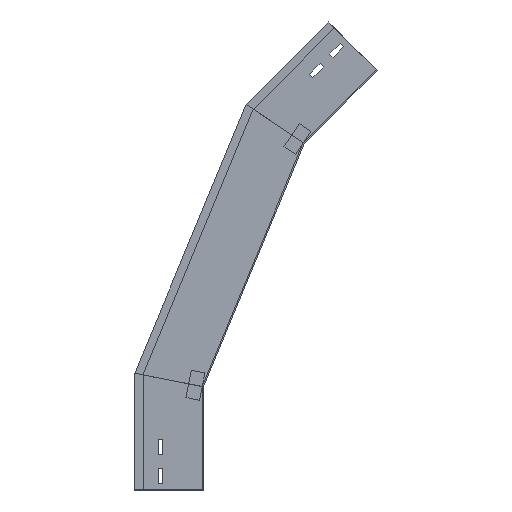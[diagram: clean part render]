
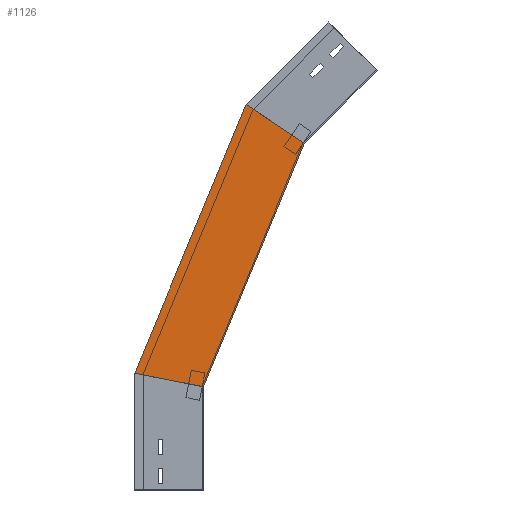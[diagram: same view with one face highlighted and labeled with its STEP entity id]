
A CAD part, left-side view. The second image highlights one B-rep face of the part: STEP entity #1126.
In plain terms, the highlighted planar face has unit normal (-1, 0, 0) as drawn and (1, 0, 0) by its records, which use the part's own axes.
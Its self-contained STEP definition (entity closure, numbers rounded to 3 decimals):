
#18 = CARTESIAN_POINT ( 'NONE',  ( 0., 8.412, 129.693 ) ) ;
#21 = DIRECTION ( 'NONE',  ( 0., -0.981, -0.195 ) ) ;
#73 = CARTESIAN_POINT ( 'NONE',  ( 0., 100., 169.891 ) ) ;
#121 = LINE ( 'NONE', #446, #1124 ) ;
#127 = CARTESIAN_POINT ( 'NONE',  ( 0., 0., 150. ) ) ;
#235 = CARTESIAN_POINT ( 'NONE',  ( 0., 100.799, 167.961 ) ) ;
#341 = EDGE_CURVE ( 'NONE', #570, #1310, #461, .T. ) ;
#344 = EDGE_CURVE ( 'NONE', #1310, #504, #670, .T. ) ;
#446 = CARTESIAN_POINT ( 'NONE',  ( 0., 8.412, 129.693 ) ) ;
#455 = EDGE_LOOP ( 'NONE', ( #1407, #1402, #630, #495 ) ) ;
#461 = LINE ( 'NONE', #235, #1435 ) ;
#482 = PLANE ( 'NONE',  #1394 ) ;
#493 = LINE ( 'NONE', #1168, #853 ) ;
#495 = ORIENTED_EDGE ( 'NONE', *, *, #806, .F. ) ;
#504 = VERTEX_POINT ( 'NONE', #1425 ) ;
#560 = DIRECTION ( 'NONE',  ( 0., 0., -1. ) ) ;
#570 = VERTEX_POINT ( 'NONE', #73 ) ;
#576 = DIRECTION ( 'NONE',  ( 0., -0.383, 0.924 ) ) ;
#630 = ORIENTED_EDGE ( 'NONE', *, *, #700, .F. ) ;
#670 = LINE ( 'NONE', #1272, #1090 ) ;
#700 = EDGE_CURVE ( 'NONE', #1321, #504, #121, .T. ) ;
#794 = DIRECTION ( 'NONE',  ( 0., -0.831, -0.556 ) ) ;
#804 = DIRECTION ( 'NONE',  ( 0., -0.383, 0.924 ) ) ;
#806 = EDGE_CURVE ( 'NONE', #570, #1321, #493, .T. ) ;
#853 = VECTOR ( 'NONE', #21, 1000. ) ;
#1051 = FACE_OUTER_BOUND ( 'NONE', #455, .T. ) ;
#1090 = VECTOR ( 'NONE', #794, 1000. ) ;
#1124 = VECTOR ( 'NONE', #804, 1000. ) ;
#1126 = ADVANCED_FACE ( 'NONE', ( #1051 ), #482, .T. ) ;
#1139 = DIRECTION ( 'NONE',  ( 1., 0., 0. ) ) ;
#1145 = CARTESIAN_POINT ( 'NONE',  ( 0., -61.792, 560.491 ) ) ;
#1168 = CARTESIAN_POINT ( 'NONE',  ( 0., -28.701, 144.291 ) ) ;
#1272 = CARTESIAN_POINT ( 'NONE',  ( 0., -212.26, 459.952 ) ) ;
#1310 = VERTEX_POINT ( 'NONE', #1145 ) ;
#1321 = VERTEX_POINT ( 'NONE', #127 ) ;
#1394 = AXIS2_PLACEMENT_3D ( 'NONE', #18, #1139, #560 ) ;
#1402 = ORIENTED_EDGE ( 'NONE', *, *, #344, .T. ) ;
#1407 = ORIENTED_EDGE ( 'NONE', *, *, #341, .T. ) ;
#1425 = CARTESIAN_POINT ( 'NONE',  ( 0., -146.568, 503.846 ) ) ;
#1435 = VECTOR ( 'NONE', #576, 1000. ) ;
